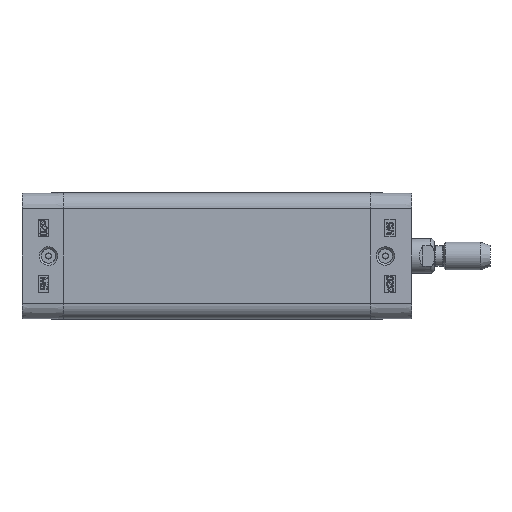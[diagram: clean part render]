
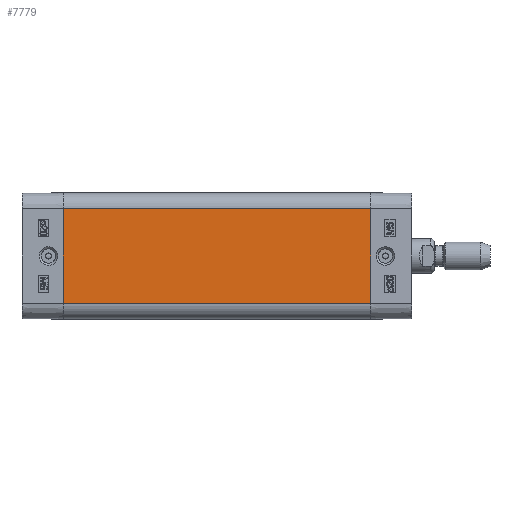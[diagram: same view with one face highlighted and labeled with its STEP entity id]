
A CAD part, left-side view. The second image highlights one B-rep face of the part: STEP entity #7779.
In plain terms, the highlighted planar face has unit normal (-1, 0, 0).
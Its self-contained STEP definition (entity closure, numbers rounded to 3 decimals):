
#6300=CARTESIAN_POINT('',(-18.15,-88.5,13.65));
#6301=VERTEX_POINT('',#6300);
#6308=CARTESIAN_POINT('',(-18.15,-88.5,-13.65));
#6309=VERTEX_POINT('',#6308);
#6310=CARTESIAN_POINT('',(-18.15,-88.5,-13.65));
#6311=DIRECTION('',(0.0,0.0,1.0));
#6312=VECTOR('',#6311,27.3);
#6313=LINE('',#6310,#6312);
#6314=EDGE_CURVE('',#6309,#6301,#6313,.T.);
#7737=CARTESIAN_POINT('',(-18.15,0.0,-13.65));
#7738=VERTEX_POINT('',#7737);
#7739=CARTESIAN_POINT('',(-18.15,0.0,-13.65));
#7740=DIRECTION('',(0.0,-1.0,0.0));
#7741=VECTOR('',#7740,88.5);
#7742=LINE('',#7739,#7741);
#7743=EDGE_CURVE('',#7738,#6309,#7742,.T.);
#7756=CARTESIAN_POINT('',(-18.15,0.0,-13.65));
#7757=DIRECTION('',(-1.0,0.0,0.0));
#7758=DIRECTION('',(0.0,0.0,1.0));
#7759=AXIS2_PLACEMENT_3D('',#7756,#7757,#7758);
#7760=PLANE('',#7759);
#7761=ORIENTED_EDGE('',*,*,#6314,.T.);
#7762=CARTESIAN_POINT('',(-18.15,0.0,13.65));
#7763=VERTEX_POINT('',#7762);
#7764=CARTESIAN_POINT('',(-18.15,0.0,13.65));
#7765=DIRECTION('',(0.0,-1.0,0.0));
#7766=VECTOR('',#7765,88.5);
#7767=LINE('',#7764,#7766);
#7768=EDGE_CURVE('',#7763,#6301,#7767,.T.);
#7769=ORIENTED_EDGE('',*,*,#7768,.F.);
#7770=CARTESIAN_POINT('',(-18.15,0.0,-13.65));
#7771=DIRECTION('',(0.0,0.0,1.0));
#7772=VECTOR('',#7771,27.3);
#7773=LINE('',#7770,#7772);
#7774=EDGE_CURVE('',#7738,#7763,#7773,.T.);
#7775=ORIENTED_EDGE('',*,*,#7774,.F.);
#7776=ORIENTED_EDGE('',*,*,#7743,.T.);
#7777=EDGE_LOOP('',(#7761,#7769,#7775,#7776));
#7778=FACE_OUTER_BOUND('',#7777,.T.);
#7779=ADVANCED_FACE('',(#7778),#7760,.T.);
